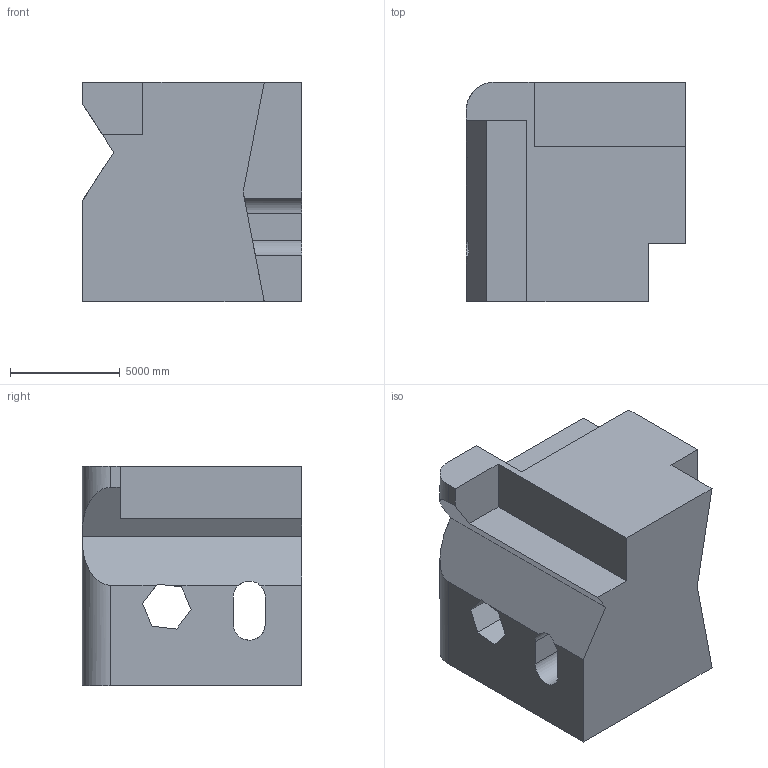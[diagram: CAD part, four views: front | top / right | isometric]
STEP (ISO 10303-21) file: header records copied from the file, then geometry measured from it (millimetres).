
FILE_DESCRIPTION (( 'STEP AP203' ), '1' );
FILE_NAME ('647.STEP', '2022-07-29T12:17:25', ( 'user' ), ( '' ), 'SwSTEP 2.0', 'SolidWorks 2021', '' );
FILE_SCHEMA (( 'CONFIG_CONTROL_DESIGN' ));
Length unit declared in the file: centimetre
Products named in the file (1): 647
Bounding box: 10000 x 10000 x 10000 mm (x, y, z)
Volume: 758482161472.5 mm3; surface area: 687279732 mm2
Topology: 1 solids, 1 shells, 32 faces, 99 edges, 66 vertices
Faces by surface type: plane 27, cylinder 5
Entity records: 1175 total; most frequent: CARTESIAN_POINT 219, ORIENTED_EDGE 198, DIRECTION 165, EDGE_CURVE 99, LINE 85, VECTOR 85, VERTEX_POINT 66, AXIS2_PLACEMENT_3D 40
